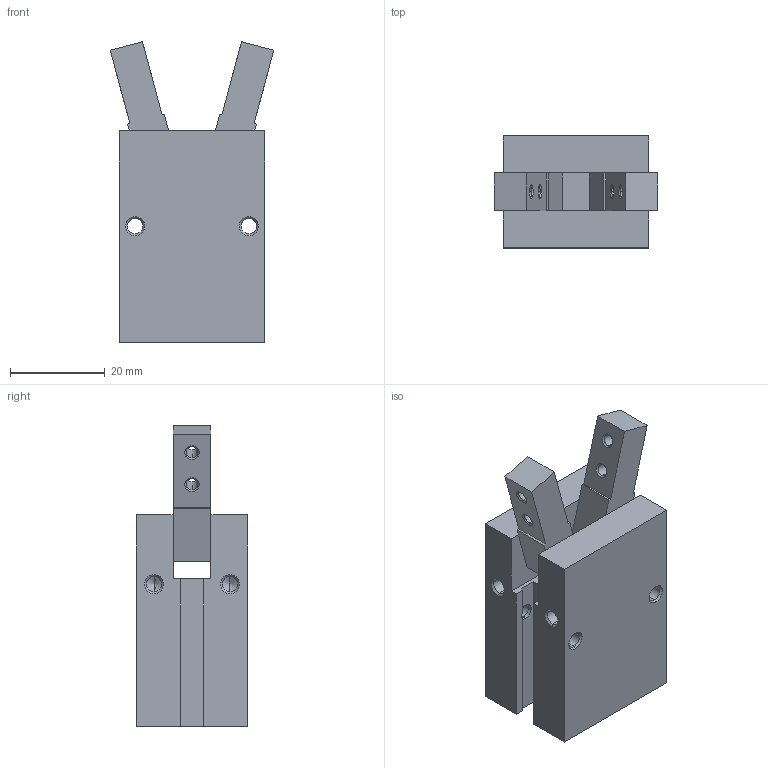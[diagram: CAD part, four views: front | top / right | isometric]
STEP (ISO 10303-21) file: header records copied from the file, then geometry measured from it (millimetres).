
FILE_DESCRIPTION (( 'STEP AP214' ), '1' );
FILE_NAME ('GMHC2-16S.STEP', '2019-11-12T01:08:46', ( '微软用户' ), ( '微软中国' ), 'SwSTEP 2.0', 'SolidWorks 2016', '' );
FILE_SCHEMA (( 'AUTOMOTIVE_DESIGN' ));
Length unit declared in the file: millimetre
Products named in the file (1): GMHC2-16S
Bounding box: 34.46 x 23.6 x 63.44 mm (x, y, z)
Surface area: 10687.2 mm2 (no closed solid volume)
Topology: 0 solids, 3 shells, 143 faces, 402 edges, 249 vertices
Faces by surface type: plane 55, cylinder 44, cone 44
Entity records: 5161 total; most frequent: CARTESIAN_POINT 1433, DIRECTION 792, ORIENTED_EDGE 748, EDGE_CURVE 392, AXIS2_PLACEMENT_3D 290, VERTEX_POINT 249, LINE 212, VECTOR 212
